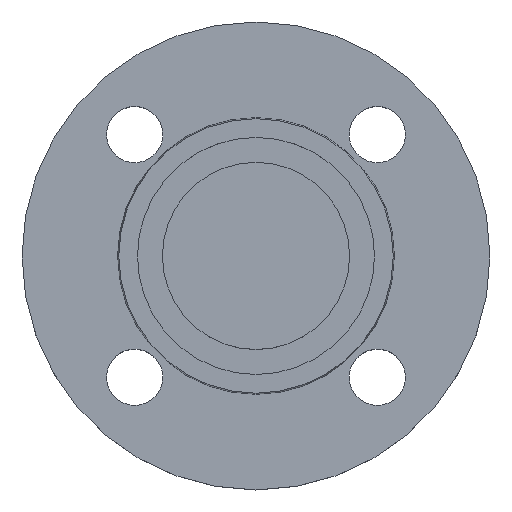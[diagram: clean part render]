
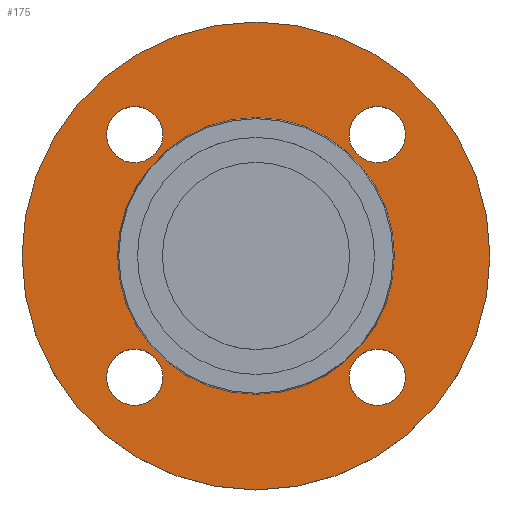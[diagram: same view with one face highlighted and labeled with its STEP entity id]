
A CAD part, top view. The second image highlights one B-rep face of the part: STEP entity #175.
In plain terms, the highlighted planar face has unit normal (0, 0, 1).
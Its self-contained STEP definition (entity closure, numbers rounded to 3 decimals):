
#21 = CARTESIAN_POINT ( 'NONE',  ( -29.891, 38.891, -2. ) ) ;
#42 = AXIS2_PLACEMENT_3D ( 'NONE', #274, #276, #278 ) ;
#44 = FACE_BOUND ( 'NONE', #808, .T. ) ;
#62 = DIRECTION ( 'NONE',  ( 1., 0., 0. ) ) ;
#63 = DIRECTION ( 'NONE',  ( 0., 0., -1. ) ) ;
#65 = CARTESIAN_POINT ( 'NONE',  ( 38.891, 38.891, -2. ) ) ;
#84 = DIRECTION ( 'NONE',  ( 1., 0., 0. ) ) ;
#85 = DIRECTION ( 'NONE',  ( 0., 0., -1. ) ) ;
#87 = EDGE_CURVE ( 'NONE', #503, #644, #790, .T. ) ;
#94 = CARTESIAN_POINT ( 'NONE',  ( 38.891, 38.891, -2. ) ) ;
#110 = FACE_BOUND ( 'NONE', #779, .T. ) ;
#112 = AXIS2_PLACEMENT_3D ( 'NONE', #443, #118, #182 ) ;
#118 = DIRECTION ( 'NONE',  ( 0., 0., -1. ) ) ;
#123 = CARTESIAN_POINT ( 'NONE',  ( 47.891, -38.891, -2. ) ) ;
#124 = CARTESIAN_POINT ( 'NONE',  ( -47.891, -38.891, -2. ) ) ;
#142 = CIRCLE ( 'NONE', #112, 9. ) ;
#145 = CARTESIAN_POINT ( 'NONE',  ( -75., 0., -2. ) ) ;
#155 = CARTESIAN_POINT ( 'NONE',  ( 29.891, 38.891, -2. ) ) ;
#175 = ADVANCED_FACE ( 'NONE', ( #110, #44, #199, #226, #864, #271 ), #272, .T. ) ;
#177 = CARTESIAN_POINT ( 'NONE',  ( 44.353, 0., -2. ) ) ;
#181 = CARTESIAN_POINT ( 'NONE',  ( -29.891, -38.891, -2. ) ) ;
#182 = DIRECTION ( 'NONE',  ( 1., 0., 0. ) ) ;
#186 = AXIS2_PLACEMENT_3D ( 'NONE', #390, #393, #394 ) ;
#188 = CARTESIAN_POINT ( 'NONE',  ( 47.891, 38.891, -2. ) ) ;
#190 = CARTESIAN_POINT ( 'NONE',  ( 75., 0., -2. ) ) ;
#194 = CARTESIAN_POINT ( 'NONE',  ( -44.353, 0., -2. ) ) ;
#199 = FACE_BOUND ( 'NONE', #784, .T. ) ;
#210 = CIRCLE ( 'NONE', #217, 9. ) ;
#217 = AXIS2_PLACEMENT_3D ( 'NONE', #728, #870, #303 ) ;
#226 = FACE_BOUND ( 'NONE', #483, .T. ) ;
#231 = CIRCLE ( 'NONE', #245, 9. ) ;
#245 = AXIS2_PLACEMENT_3D ( 'NONE', #705, #593, #694 ) ;
#248 = AXIS2_PLACEMENT_3D ( 'NONE', #342, #726, #883 ) ;
#255 = CIRCLE ( 'NONE', #248, 9. ) ;
#271 = FACE_OUTER_BOUND ( 'NONE', #758, .T. ) ;
#272 = PLANE ( 'NONE',  #42 ) ;
#274 = CARTESIAN_POINT ( 'NONE',  ( 44.353, 0., -2. ) ) ;
#276 = DIRECTION ( 'NONE',  ( 0., 0., 1. ) ) ;
#278 = DIRECTION ( 'NONE',  ( 1., 0., 0. ) ) ;
#300 = CIRCLE ( 'NONE', #686, 44.353 ) ;
#303 = DIRECTION ( 'NONE',  ( 1., 0., 0. ) ) ;
#311 = AXIS2_PLACEMENT_3D ( 'NONE', #406, #408, #409 ) ;
#313 = EDGE_CURVE ( 'NONE', #485, #508, #524, .T. ) ;
#315 = EDGE_CURVE ( 'NONE', #475, #623, #543, .T. ) ;
#327 = EDGE_CURVE ( 'NONE', #508, #485, #300, .T. ) ;
#329 = EDGE_CURVE ( 'NONE', #623, #475, #746, .T. ) ;
#331 = AXIS2_PLACEMENT_3D ( 'NONE', #415, #417, #420 ) ;
#339 = EDGE_CURVE ( 'NONE', #791, #771, #687, .T. ) ;
#342 = CARTESIAN_POINT ( 'NONE',  ( -38.891, 38.891, -2. ) ) ;
#359 = EDGE_CURVE ( 'NONE', #649, #492, #142, .T. ) ;
#368 = AXIS2_PLACEMENT_3D ( 'NONE', #65, #63, #62 ) ;
#373 = CIRCLE ( 'NONE', #368, 9. ) ;
#385 = CARTESIAN_POINT ( 'NONE',  ( -47.891, 38.891, -2. ) ) ;
#390 = CARTESIAN_POINT ( 'NONE',  ( 0., 0., -2. ) ) ;
#391 = AXIS2_PLACEMENT_3D ( 'NONE', #94, #85, #84 ) ;
#393 = DIRECTION ( 'NONE',  ( 0., 0., -1. ) ) ;
#394 = DIRECTION ( 'NONE',  ( -1., 0., 0. ) ) ;
#395 = CARTESIAN_POINT ( 'NONE',  ( 0., 0., -2. ) ) ;
#396 = DIRECTION ( 'NONE',  ( 0., 0., -1. ) ) ;
#397 = DIRECTION ( 'NONE',  ( -1., 0., 0. ) ) ;
#399 = CARTESIAN_POINT ( 'NONE',  ( 0., 0., -2. ) ) ;
#404 = DIRECTION ( 'NONE',  ( 0., 0., -1. ) ) ;
#405 = DIRECTION ( 'NONE',  ( -1., 0., 0. ) ) ;
#406 = CARTESIAN_POINT ( 'NONE',  ( 0., 0., -2. ) ) ;
#408 = DIRECTION ( 'NONE',  ( 0., 0., -1. ) ) ;
#409 = DIRECTION ( 'NONE',  ( -1., 0., 0. ) ) ;
#415 = CARTESIAN_POINT ( 'NONE',  ( -38.891, 38.891, -2. ) ) ;
#417 = DIRECTION ( 'NONE',  ( 0., 0., -1. ) ) ;
#420 = DIRECTION ( 'NONE',  ( 1., 0., 0. ) ) ;
#429 = CARTESIAN_POINT ( 'NONE',  ( 29.891, -38.891, -2. ) ) ;
#443 = CARTESIAN_POINT ( 'NONE',  ( -38.891, -38.891, -2. ) ) ;
#452 = CIRCLE ( 'NONE', #391, 9. ) ;
#473 = AXIS2_PLACEMENT_3D ( 'NONE', #892, #893, #894 ) ;
#475 = VERTEX_POINT ( 'NONE', #190 ) ;
#483 = EDGE_LOOP ( 'NONE', ( #608, #609 ) ) ;
#485 = VERTEX_POINT ( 'NONE', #194 ) ;
#492 = VERTEX_POINT ( 'NONE', #181 ) ;
#493 = VERTEX_POINT ( 'NONE', #188 ) ;
#503 = VERTEX_POINT ( 'NONE', #429 ) ;
#508 = VERTEX_POINT ( 'NONE', #177 ) ;
#524 = CIRCLE ( 'NONE', #186, 44.353 ) ;
#543 = CIRCLE ( 'NONE', #546, 75. ) ;
#546 = AXIS2_PLACEMENT_3D ( 'NONE', #395, #396, #397 ) ;
#593 = DIRECTION ( 'NONE',  ( 0., 0., -1. ) ) ;
#600 = ORIENTED_EDGE ( 'NONE', *, *, #842, .T. ) ;
#602 = ORIENTED_EDGE ( 'NONE', *, *, #87, .T. ) ;
#603 = ORIENTED_EDGE ( 'NONE', *, *, #823, .T. ) ;
#604 = ORIENTED_EDGE ( 'NONE', *, *, #359, .T. ) ;
#606 = ORIENTED_EDGE ( 'NONE', *, *, #858, .T. ) ;
#607 = ORIENTED_EDGE ( 'NONE', *, *, #339, .T. ) ;
#608 = ORIENTED_EDGE ( 'NONE', *, *, #691, .T. ) ;
#609 = ORIENTED_EDGE ( 'NONE', *, *, #721, .T. ) ;
#610 = ORIENTED_EDGE ( 'NONE', *, *, #313, .T. ) ;
#611 = ORIENTED_EDGE ( 'NONE', *, *, #327, .T. ) ;
#613 = VERTEX_POINT ( 'NONE', #155 ) ;
#616 = ORIENTED_EDGE ( 'NONE', *, *, #315, .F. ) ;
#619 = ORIENTED_EDGE ( 'NONE', *, *, #329, .F. ) ;
#623 = VERTEX_POINT ( 'NONE', #145 ) ;
#644 = VERTEX_POINT ( 'NONE', #123 ) ;
#649 = VERTEX_POINT ( 'NONE', #124 ) ;
#686 = AXIS2_PLACEMENT_3D ( 'NONE', #399, #404, #405 ) ;
#687 = CIRCLE ( 'NONE', #331, 9. ) ;
#691 = EDGE_CURVE ( 'NONE', #493, #613, #452, .T. ) ;
#694 = DIRECTION ( 'NONE',  ( 1., 0., 0. ) ) ;
#705 = CARTESIAN_POINT ( 'NONE',  ( 38.891, -38.891, -2. ) ) ;
#721 = EDGE_CURVE ( 'NONE', #613, #493, #373, .T. ) ;
#726 = DIRECTION ( 'NONE',  ( 0., 0., -1. ) ) ;
#728 = CARTESIAN_POINT ( 'NONE',  ( -38.891, -38.891, -2. ) ) ;
#746 = CIRCLE ( 'NONE', #311, 75. ) ;
#758 = EDGE_LOOP ( 'NONE', ( #616, #619 ) ) ;
#771 = VERTEX_POINT ( 'NONE', #21 ) ;
#779 = EDGE_LOOP ( 'NONE', ( #600, #602 ) ) ;
#784 = EDGE_LOOP ( 'NONE', ( #606, #607 ) ) ;
#790 = CIRCLE ( 'NONE', #473, 9. ) ;
#791 = VERTEX_POINT ( 'NONE', #385 ) ;
#795 = EDGE_LOOP ( 'NONE', ( #610, #611 ) ) ;
#808 = EDGE_LOOP ( 'NONE', ( #603, #604 ) ) ;
#823 = EDGE_CURVE ( 'NONE', #492, #649, #210, .T. ) ;
#842 = EDGE_CURVE ( 'NONE', #644, #503, #231, .T. ) ;
#858 = EDGE_CURVE ( 'NONE', #771, #791, #255, .T. ) ;
#864 = FACE_BOUND ( 'NONE', #795, .T. ) ;
#870 = DIRECTION ( 'NONE',  ( 0., 0., -1. ) ) ;
#883 = DIRECTION ( 'NONE',  ( 1., 0., 0. ) ) ;
#892 = CARTESIAN_POINT ( 'NONE',  ( 38.891, -38.891, -2. ) ) ;
#893 = DIRECTION ( 'NONE',  ( 0., 0., -1. ) ) ;
#894 = DIRECTION ( 'NONE',  ( 1., 0., 0. ) ) ;
